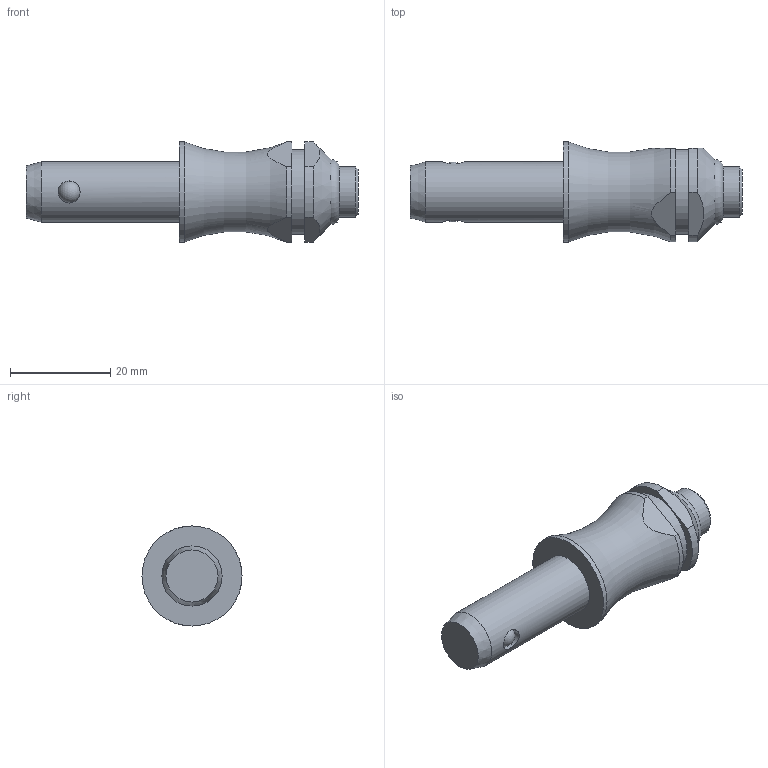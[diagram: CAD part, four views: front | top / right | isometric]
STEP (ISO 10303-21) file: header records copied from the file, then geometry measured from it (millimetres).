
FILE_DESCRIPTION( ( 'STEP AP203' ), '1' );
FILE_NAME( 'C:/Temp/Ganter_Step_05_03_2020/data/3_1/gn113_3/Stainless Steel-Ball lock pin GN 113.3-12-20 (activated).stp', '2020-03-12T08:18:40', ( 'License CC BY-ND 4.0' ), ( 'CADENAS' ), ' ', 'PARTsolutions', ' ' );
FILE_SCHEMA( ( 'CONFIG_CONTROL_DESIGN' ) );
Length unit declared in the file: millimetre
Products named in the file (1): _Stainless Steel-Ball lock pin GN 113.3-12-20 (activated)
Bounding box: 66.35 x 20 x 20 mm (x, y, z)
Volume: 11066 mm3; surface area: 3670.4 mm2
Topology: 1 solids, 1 shells, 30 faces, 72 edges, 45 vertices
Faces by surface type: cylinder 12, plane 11, cone 3, torus 2, sphere 2
Full cylindrical faces by diameter (mm): 4.4 x2, 10 x1, 12 x1, 17 x1, 20 x1
Entity records: 1010 total; most frequent: CARTESIAN_POINT 360, DIRECTION 130, ORIENTED_EDGE 102, AXIS2_PLACEMENT_3D 56, EDGE_CURVE 51, EDGE_LOOP 46, VERTEX_POINT 40, FACE_OUTER_BOUND 38
